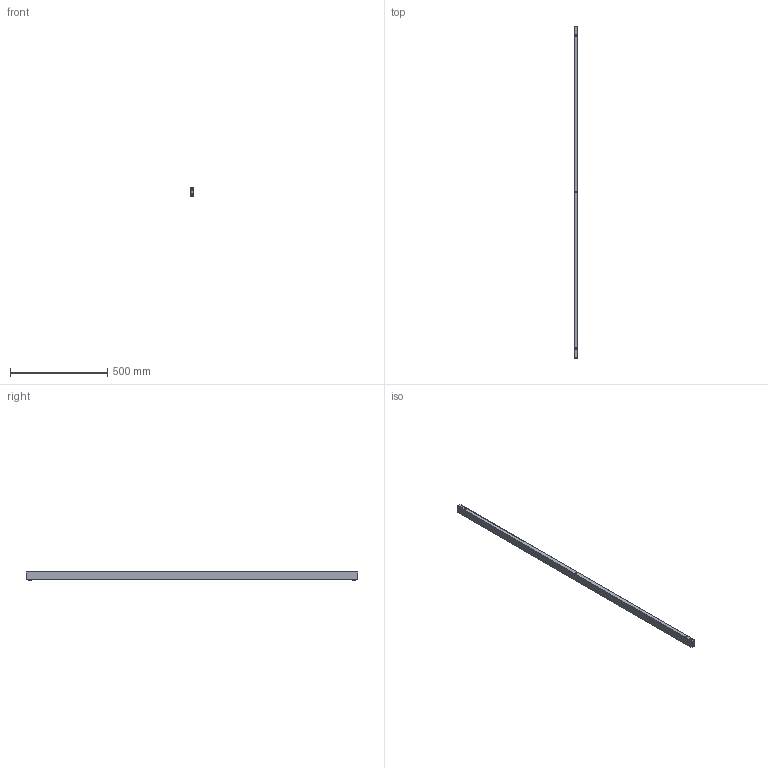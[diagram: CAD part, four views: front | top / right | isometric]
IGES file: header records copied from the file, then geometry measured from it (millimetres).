
Start section: Data from Parasolid IGES Translator 20.0.26, Copyright(c) 2006 Siemens P LM Software. All Rights Reserved.
Global section: file name: 46015.igs; native system: By Siemens PLM Incorporated; preprocessor: XPlus GENERIC/IGES 20.0.26; author: Noname; organization: Noname; date: 20210125.173231; units: millimetre
Bounding box: 20 x 1710 x 41.5 mm (x, y, z)
Surface area: 392946 mm2 (no closed solid volume)
Topology: 0 solids, 0 shells, 33 faces, 174 edges, 136 vertices
Faces by surface type: revolution 21, extrusion 12
